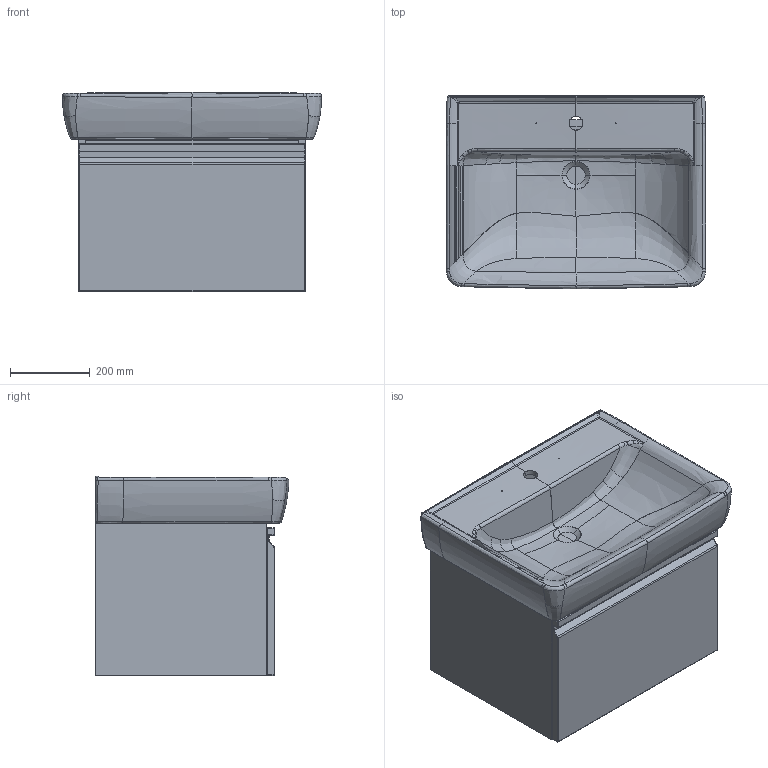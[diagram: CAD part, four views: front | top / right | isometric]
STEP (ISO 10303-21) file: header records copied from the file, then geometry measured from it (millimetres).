
FILE_DESCRIPTION(/* description */ (''),/* implementation_level */ '2;1');
FILE_NAME(/* name */ '3DEE90~1',/* time_stamp */ '2018-05-22T10:21:43+02:00',/* author */ (''),/* organization */ (''),/* preprocessor_version */ 'ST-DEVELOPER v15',/* originating_system */ '',/* authorisation */ '');
FILE_SCHEMA (('AUTOMOTIVE_DESIGN'));
Length unit declared in the file: millimetre
Products named in the file (41): Document; 3D01_483042_39; 3D01_483042_38; 3D01_483042_37; 3D01_483042_36; 3D01_483042_35; 3D01_483042_34; 3D01_483042_33; 3D01_483042_32; 3D01_483042_31; 3D01_483042_30; 3D01_483042_29; 3D01_483042_28; 3D01_483042_27; 3D01_483042_26; 3D01_483042_25; 3D01_483042_24; 3D01_483042_23; 3D01_483042_22; 3D01_483042_21; 3D01_483042_20; 3D01_483042_19; 3D01_483042_18; 3D01_483042_17; 3D01_483042_16; 3D01_483042_15; 3D01_483042_14; 3D01_483042_13; 3D01_483042_12; 3D01_483042_11; 3D01_483042_10; 3D01_483042_9; 3D01_483042_8; 3D01_483042_7; 3D01_483042_6; 3D01_483042_5; 3D01_483042_4; 3D01_483042_3; 3D01_483042_2; 3D01_483042_1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
Assembly tree (40 placements, depth 2):
  Document
    3D01_483042_39
    3D01_483042_38
    3D01_483042_37
    3D01_483042_36
    3D01_483042_35
    3D01_483042_34
    3D01_483042_33
    3D01_483042_32
    3D01_483042_31
    3D01_483042_30
    3D01_483042_29
    3D01_483042_28
    3D01_483042_27
    3D01_483042_26
    3D01_483042_25
    3D01_483042_24
    3D01_483042_23
    3D01_483042_22
    3D01_483042_21
    3D01_483042_20
    3D01_483042_19
    3D01_483042_18
    3D01_483042_17
    3D01_483042_16
    3D01_483042_15
    3D01_483042_14
    3D01_483042_13
    3D01_483042_12
    3D01_483042_11
    3D01_483042_10
    3D01_483042_9
    3D01_483042_8
    3D01_483042_7
    3D01_483042_6
    3D01_483042_5
    3D01_483042_4
    3D01_483042_3
    3D01_483042_2
    3D01_483042_1
    3D01_483042
Bounding box: 650.04 x 485.83 x 501.18 mm (x, y, z)
Volume: 39395342.6 mm3; surface area: 6436940.1 mm2
Topology: 41 solids, 43 shells, 1620 faces, 4274 edges, 2671 vertices
Faces by surface type: plane 866, bspline 754
Entity records: 68618 total; most frequent: CARTESIAN_POINT 40062, ORIENTED_EDGE 8292, EDGE_CURVE 4227, B_SPLINE_CURVE_WITH_KNOTS 3581, VERTEX_POINT 2671, EDGE_LOOP 1770, ADVANCED_FACE 1619, FACE_OUTER_BOUND 1619
